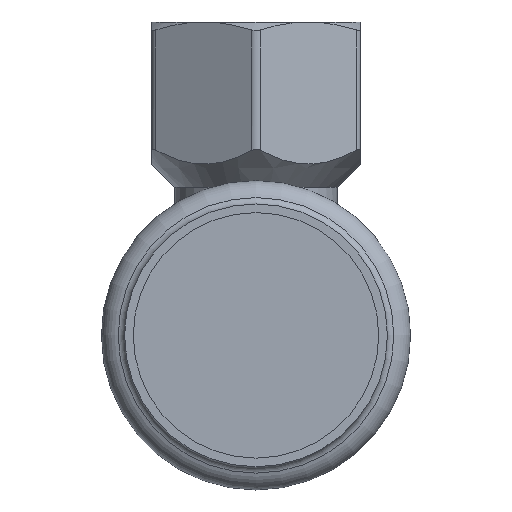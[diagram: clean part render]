
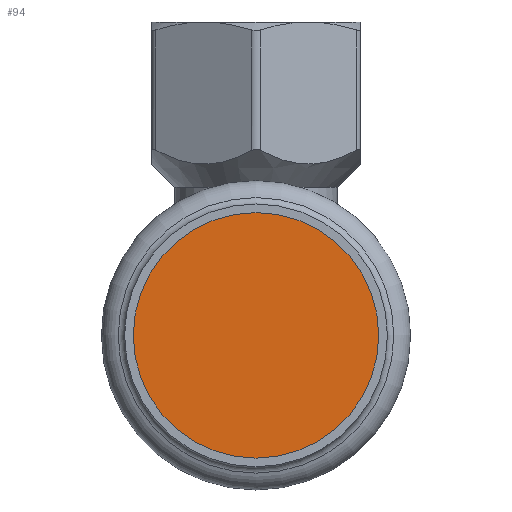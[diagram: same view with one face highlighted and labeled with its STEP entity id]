
A CAD part, front view. The second image highlights one B-rep face of the part: STEP entity #94.
In plain terms, the highlighted planar face has unit normal (0, -1, 0).
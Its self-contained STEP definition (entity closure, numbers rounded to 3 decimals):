
#94=ADVANCED_FACE('',(#429),#431,.T.);
#429=FACE_BOUND('',#430,.T.);
#430=EDGE_LOOP('',(#589));
#431=PLANE('',#432);
#432=AXIS2_PLACEMENT_3D('',#433,#434,#435);
#433=CARTESIAN_POINT('',(0.,-60.292,0.));
#434=DIRECTION('',(0.,-1.,0.));
#435=DIRECTION('',(0.,0.,-1.));
#589=ORIENTED_EDGE('',*,*,#663,.T.);
#663=EDGE_CURVE('',#791,#791,#792,.F.);
#791=VERTEX_POINT('',#2370);
#792=CIRCLE('',#2371,21.15);
#2370=CARTESIAN_POINT('',(0.,-60.292,21.15));
#2371=AXIS2_PLACEMENT_3D('',#2372,#2373,#2374);
#2372=CARTESIAN_POINT('',(0.,-60.292,0.));
#2373=DIRECTION('',(0.,1.,0.));
#2374=DIRECTION('',(0.,0.,1.));
